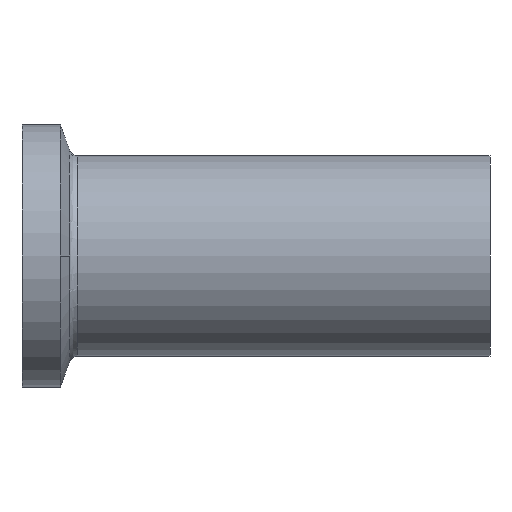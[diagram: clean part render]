
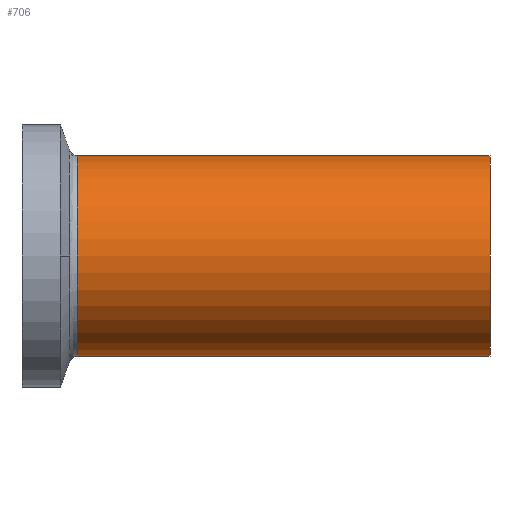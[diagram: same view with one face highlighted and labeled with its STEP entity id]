
A CAD part, front view. The second image highlights one B-rep face of the part: STEP entity #706.
In plain terms, the highlighted cylindrical face has radius 9.525 mm (diameter 19.05 mm), a partial arc.
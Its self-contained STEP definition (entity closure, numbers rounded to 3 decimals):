
#9 = CARTESIAN_POINT ( 'NONE',  ( 44.5, 0., 9.525 ) ) ;
#16 = VERTEX_POINT ( 'NONE', #329 ) ;
#19 = CARTESIAN_POINT ( 'NONE',  ( -9.765, 0., 0. ) ) ;
#20 = CYLINDRICAL_SURFACE ( 'NONE', #240, 9.525 ) ;
#69 = CARTESIAN_POINT ( 'NONE',  ( 44.5, 0., 0. ) ) ;
#81 = DIRECTION ( 'NONE',  ( -1., 0., 0. ) ) ;
#87 = LINE ( 'NONE', #590, #715 ) ;
#90 = ORIENTED_EDGE ( 'NONE', *, *, #428, .F. ) ;
#127 = DIRECTION ( 'NONE',  ( 0., 0., 1. ) ) ;
#166 = CIRCLE ( 'NONE', #556, 9.525 ) ;
#194 = FACE_OUTER_BOUND ( 'NONE', #762, .T. ) ;
#212 = ORIENTED_EDGE ( 'NONE', *, *, #628, .T. ) ;
#240 = AXIS2_PLACEMENT_3D ( 'NONE', #19, #81, #621 ) ;
#249 = VERTEX_POINT ( 'NONE', #9 ) ;
#261 = VERTEX_POINT ( 'NONE', #487 ) ;
#311 = CARTESIAN_POINT ( 'NONE',  ( 5.265, 0., 0. ) ) ;
#329 = CARTESIAN_POINT ( 'NONE',  ( 5.265, 0., 9.525 ) ) ;
#365 = CARTESIAN_POINT ( 'NONE',  ( -9.765, 0., 9.525 ) ) ;
#379 = DIRECTION ( 'NONE',  ( 0., 0., 1. ) ) ;
#389 = VECTOR ( 'NONE', #611, 1000. ) ;
#407 = LINE ( 'NONE', #365, #389 ) ;
#410 = AXIS2_PLACEMENT_3D ( 'NONE', #69, #486, #127 ) ;
#428 = EDGE_CURVE ( 'NONE', #261, #577, #87, .T. ) ;
#486 = DIRECTION ( 'NONE',  ( -1., 0., 0. ) ) ;
#487 = CARTESIAN_POINT ( 'NONE',  ( 44.5, 0., -9.525 ) ) ;
#494 = CIRCLE ( 'NONE', #410, 9.525 ) ;
#527 = DIRECTION ( 'NONE',  ( -1., 0., 0. ) ) ;
#544 = EDGE_CURVE ( 'NONE', #261, #249, #494, .T. ) ;
#556 = AXIS2_PLACEMENT_3D ( 'NONE', #311, #752, #379 ) ;
#577 = VERTEX_POINT ( 'NONE', #603 ) ;
#590 = CARTESIAN_POINT ( 'NONE',  ( -9.765, 0., -9.525 ) ) ;
#603 = CARTESIAN_POINT ( 'NONE',  ( 5.265, 0., -9.525 ) ) ;
#611 = DIRECTION ( 'NONE',  ( -1., 0., 0. ) ) ;
#621 = DIRECTION ( 'NONE',  ( 0., 0., 1. ) ) ;
#628 = EDGE_CURVE ( 'NONE', #249, #16, #407, .T. ) ;
#706 = ADVANCED_FACE ( 'NONE', ( #194 ), #20, .T. ) ;
#714 = EDGE_CURVE ( 'NONE', #16, #577, #166, .T. ) ;
#715 = VECTOR ( 'NONE', #527, 1000. ) ;
#739 = ORIENTED_EDGE ( 'NONE', *, *, #544, .T. ) ;
#752 = DIRECTION ( 'NONE',  ( 1., 0., 0. ) ) ;
#758 = ORIENTED_EDGE ( 'NONE', *, *, #714, .T. ) ;
#762 = EDGE_LOOP ( 'NONE', ( #90, #739, #212, #758 ) ) ;
